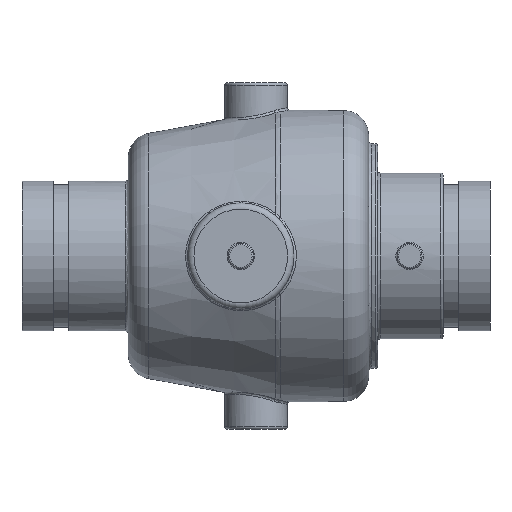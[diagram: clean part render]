
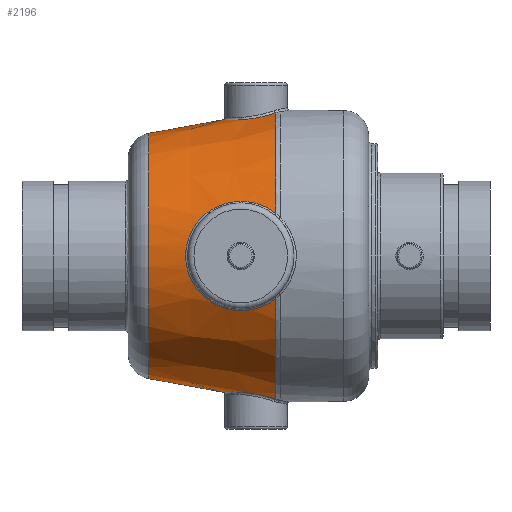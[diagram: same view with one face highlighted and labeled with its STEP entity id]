
A CAD part, front view. The second image highlights one B-rep face of the part: STEP entity #2196.
In plain terms, the highlighted conical face has half-angle 10 degrees and reference radius 74.196 mm.
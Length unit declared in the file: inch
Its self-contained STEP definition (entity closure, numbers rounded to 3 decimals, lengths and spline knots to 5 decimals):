
#51=CONICAL_SURFACE('',#2413,2.92112,0.175);
#204=LINE('',#4936,#285);
#207=LINE('',#4973,#288);
#285=VECTOR('',#2847,0.3937);
#288=VECTOR('',#2856,0.3937);
#388=FACE_OUTER_BOUND('',#522,.T.);
#522=EDGE_LOOP('',(#1575,#1576,#1577,#1578,#1579,#1580,#1581,#1582));
#684=CIRCLE('',#2414,2.91352);
#685=CIRCLE('',#2415,2.91352);
#686=CIRCLE('',#2416,2.46499);
#789=B_SPLINE_CURVE_WITH_KNOTS('',3,(#4732,#4733,#4734,#4735,#4736,#4737,
#4738,#4739,#4740,#4741),.UNSPECIFIED.,.F.,.F.,(4,1,1,1,1,1,1,4),(-4.41707,
-3.78606,-3.15505,-2.52404,-1.89303,
-1.26202,-0.63101,0.),.UNSPECIFIED.);
#798=B_SPLINE_CURVE_WITH_KNOTS('',3,(#4944,#4945,#4946,#4947,#4948,#4949,
#4950,#4951,#4952,#4953,#4954,#4955,#4956,#4957,#4958),.UNSPECIFIED.,.F.,
 .F.,(4,1,1,1,1,1,1,1,1,1,1,1,4),(-12.88864,-11.96802,-11.04741,
-10.12679,-9.20617,-7.36494,-6.13745,
-5.5237,-3.68247,-2.76185,-1.84123,
-0.92062,0.),.UNSPECIFIED.);
#799=B_SPLINE_CURVE_WITH_KNOTS('',3,(#4962,#4963,#4964,#4965,#4966,#4967,
#4968,#4969,#4970,#4971),.UNSPECIFIED.,.F.,.F.,(4,1,1,1,1,1,1,4),(-4.41708,
-3.78607,-3.47056,-2.52404,-1.89303,
-1.26202,-0.63101,0.),.UNSPECIFIED.);
#901=VERTEX_POINT('',#4729);
#902=VERTEX_POINT('',#4731);
#915=VERTEX_POINT('',#4935);
#917=VERTEX_POINT('',#4941);
#918=VERTEX_POINT('',#4943);
#919=VERTEX_POINT('',#4959);
#920=VERTEX_POINT('',#4961);
#921=VERTEX_POINT('',#4972);
#1133=EDGE_CURVE('',#901,#902,#789,.T.);
#1154=EDGE_CURVE('',#902,#915,#204,.T.);
#1157=EDGE_CURVE('',#917,#901,#684,.T.);
#1158=EDGE_CURVE('',#918,#917,#798,.T.);
#1159=EDGE_CURVE('',#919,#918,#685,.T.);
#1160=EDGE_CURVE('',#920,#919,#799,.T.);
#1161=EDGE_CURVE('',#920,#921,#207,.T.);
#1162=EDGE_CURVE('',#915,#921,#686,.T.);
#1575=ORIENTED_EDGE('',*,*,#1133,.F.);
#1576=ORIENTED_EDGE('',*,*,#1157,.F.);
#1577=ORIENTED_EDGE('',*,*,#1158,.F.);
#1578=ORIENTED_EDGE('',*,*,#1159,.F.);
#1579=ORIENTED_EDGE('',*,*,#1160,.F.);
#1580=ORIENTED_EDGE('',*,*,#1161,.T.);
#1581=ORIENTED_EDGE('',*,*,#1162,.F.);
#1582=ORIENTED_EDGE('',*,*,#1154,.F.);
#2196=ADVANCED_FACE('',(#388),#51,.T.);
#2413=AXIS2_PLACEMENT_3D('',#4940,#2850,#2851);
#2414=AXIS2_PLACEMENT_3D('',#4942,#2852,#2853);
#2415=AXIS2_PLACEMENT_3D('',#4960,#2854,#2855);
#2416=AXIS2_PLACEMENT_3D('',#4974,#2857,#2858);
#2847=DIRECTION('',(-0.985,-0.015,0.173));
#2850=DIRECTION('center_axis',(1.,0.,0.));
#2851=DIRECTION('ref_axis',(0.,-1.,0.));
#2852=DIRECTION('center_axis',(1.,0.,0.));
#2853=DIRECTION('ref_axis',(0.,-1.,0.));
#2854=DIRECTION('center_axis',(1.,0.,0.));
#2855=DIRECTION('ref_axis',(0.,-1.,0.));
#2856=DIRECTION('',(-0.985,-0.015,-0.173));
#2857=DIRECTION('center_axis',(-1.,0.,0.));
#2858=DIRECTION('ref_axis',(0.,-1.,0.));
#4729=CARTESIAN_POINT('',(5.08442,-0.54126,-2.8628));
#4731=CARTESIAN_POINT('',(4.06376,0.23824,-2.72315));
#4732=CARTESIAN_POINT('Ctrl Pts',(5.08442,-0.54126,-2.8628));
#4733=CARTESIAN_POINT('Ctrl Pts',(5.019,-0.58689,-2.84243));
#4734=CARTESIAN_POINT('Ctrl Pts',(4.87173,-0.65496,-2.80072));
#4735=CARTESIAN_POINT('Ctrl Pts',(4.62505,-0.67498,-2.75081));
#4736=CARTESIAN_POINT('Ctrl Pts',(4.38343,-0.60604,-2.72392));
#4737=CARTESIAN_POINT('Ctrl Pts',(4.18217,-0.45564,-2.7185));
#4738=CARTESIAN_POINT('Ctrl Pts',(4.04962,-0.24432,-2.72344));
#4739=CARTESIAN_POINT('Ctrl Pts',(4.00327,-0.00035,
-2.72668));
#4740=CARTESIAN_POINT('Ctrl Pts',(4.03401,0.16234,-2.72452));
#4741=CARTESIAN_POINT('Ctrl Pts',(4.06376,0.23824,-2.72315));
#4935=CARTESIAN_POINT('',(2.54068,0.21484,-2.45561));
#4936=CARTESIAN_POINT('',(5.1275,0.25459,-2.91));
#4940=CARTESIAN_POINT('Origin',(5.1275,0.,0.));
#4941=CARTESIAN_POINT('',(5.08442,-2.78565,-0.85368));
#4942=CARTESIAN_POINT('Origin',(5.08442,0.,0.));
#4943=CARTESIAN_POINT('',(5.08442,-2.78565,0.85368));
#4944=CARTESIAN_POINT('Ctrl Pts',(5.08442,-2.78565,0.85368));
#4945=CARTESIAN_POINT('Ctrl Pts',(4.99504,-2.7476,0.92404));
#4946=CARTESIAN_POINT('Ctrl Pts',(4.79481,-2.66938,1.03709));
#4947=CARTESIAN_POINT('Ctrl Pts',(4.44906,-2.57201,1.11055));
#4948=CARTESIAN_POINT('Ctrl Pts',(4.08693,-2.51906,1.07199));
#4949=CARTESIAN_POINT('Ctrl Pts',(3.6408,-2.51829,0.86978));
#4950=CARTESIAN_POINT('Ctrl Pts',(3.30961,-2.58589,0.44142));
#4951=CARTESIAN_POINT('Ctrl Pts',(3.25659,-2.59935,-0.04168));
#4952=CARTESIAN_POINT('Ctrl Pts',(3.36074,-2.57511,-0.50749));
#4953=CARTESIAN_POINT('Ctrl Pts',(3.64071,-2.5185,-0.86962));
#4954=CARTESIAN_POINT('Ctrl Pts',(4.08701,-2.51896,-1.07199));
#4955=CARTESIAN_POINT('Ctrl Pts',(4.44902,-2.57205,-1.11054));
#4956=CARTESIAN_POINT('Ctrl Pts',(4.79483,-2.66935,-1.03709));
#4957=CARTESIAN_POINT('Ctrl Pts',(4.99504,-2.7476,-0.92404));
#4958=CARTESIAN_POINT('Ctrl Pts',(5.08442,-2.78565,-0.85368));
#4959=CARTESIAN_POINT('',(5.08442,-0.54126,2.8628));
#4960=CARTESIAN_POINT('Origin',(5.08442,0.,0.));
#4961=CARTESIAN_POINT('',(4.06376,0.23824,2.72315));
#4962=CARTESIAN_POINT('Ctrl Pts',(4.06376,0.23824,2.72315));
#4963=CARTESIAN_POINT('Ctrl Pts',(4.03401,0.16234,2.72452));
#4964=CARTESIAN_POINT('Ctrl Pts',(4.01114,0.0404,2.72603));
#4965=CARTESIAN_POINT('Ctrl Pts',(4.03386,-0.20378,2.72473));
#4966=CARTESIAN_POINT('Ctrl Pts',(4.14836,-0.43066,2.71775));
#4967=CARTESIAN_POINT('Ctrl Pts',(4.38351,-0.60601,2.72387));
#4968=CARTESIAN_POINT('Ctrl Pts',(4.62499,-0.675,2.75084));
#4969=CARTESIAN_POINT('Ctrl Pts',(4.87174,-0.65495,2.80071));
#4970=CARTESIAN_POINT('Ctrl Pts',(5.019,-0.58689,2.84243));
#4971=CARTESIAN_POINT('Ctrl Pts',(5.08442,-0.54126,2.8628));
#4972=CARTESIAN_POINT('',(2.54068,0.21484,2.45561));
#4973=CARTESIAN_POINT('',(5.1275,0.25459,2.91));
#4974=CARTESIAN_POINT('Origin',(2.54068,0.,0.));
